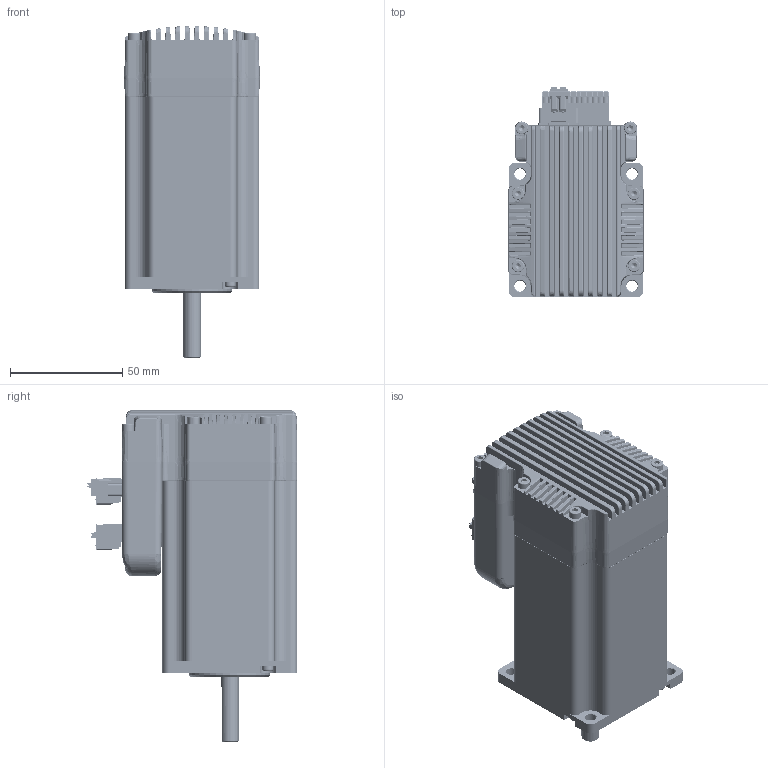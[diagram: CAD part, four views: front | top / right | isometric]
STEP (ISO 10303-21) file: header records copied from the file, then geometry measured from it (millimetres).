
FILE_DESCRIPTION (( 'STEP AP203' ), '1' );
FILE_NAME ('iHSS60-36-30-31.STEP', '2019-10-09T06:49:02', ( 'USER-' ), ( 'MS' ), 'SwSTEP 2.0', 'SolidWorks 2015', '' );
FILE_SCHEMA (( 'CONFIG_CONTROL_DESIGN' ));
Length unit declared in the file: millimetre
Products named in the file (11): 60一体化散热器; hexagon socket head cap screws gb_GB_FASTENER_SCREWS_HSHCS M3X10-S; 60珨极趙 15EDGKD-2.5-5P-MALE; 60珨极趙 15EDGKDM-3.81-2PMALE; 60珨极趙15EDGKD-2.5-10PMALE; 60珨极趙奻裔-31; 60菁裔; 60儂旯-30; 60珨极趙; iHSS60-36-30-31; 珨极趙pcb啣饜磁
Assembly tree (15 placements, depth 2):
  iHSS60-36-30-31
    60菁裔
    60珨极趙
    珨极趙pcb啣饜磁
    60一体化散热器
    hexagon socket head cap screws gb_GB_FASTENER_SCREWS_HSHCS M3X10-S  x6
    60珨极趙 15EDGKD-2.5-5P-MALE
    60珨极趙 15EDGKDM-3.81-2PMALE
    60珨极趙15EDGKD-2.5-10PMALE
    60珨极趙奻裔-31
    60儂旯-30
Bounding box: 60.4 x 93.95 x 148.1 mm (x, y, z)
Volume: 340555.2 mm3; surface area: 115546.3 mm2
Topology: 14 solids, 39 shells, 5569 faces, 14095 edges, 8870 vertices
Faces by surface type: plane 2824, cylinder 1554, cone 910, bspline 263, torus 14, sphere 4
Entity records: 158644 total; most frequent: CARTESIAN_POINT 47851, ORIENTED_EDGE 23618, DIRECTION 21312, EDGE_CURVE 11816, VECTOR 8062, LINE 8062, VERTEX_POINT 7645, AXIS2_PLACEMENT_3D 6625
